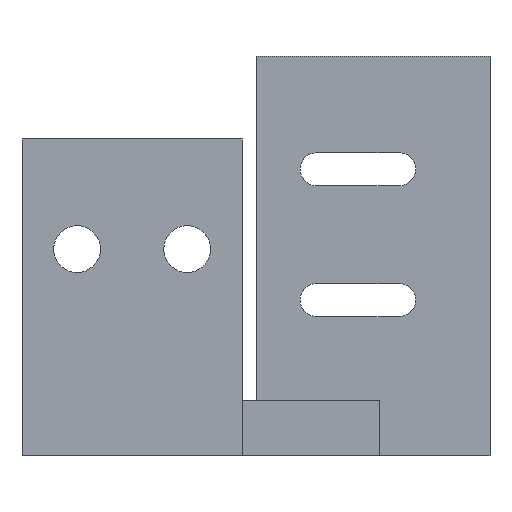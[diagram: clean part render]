
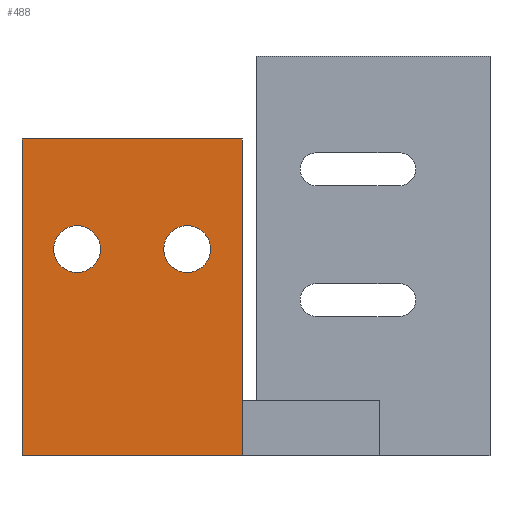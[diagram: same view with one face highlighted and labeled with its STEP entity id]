
A CAD part, left-side view. The second image highlights one B-rep face of the part: STEP entity #488.
In plain terms, the highlighted planar face has unit normal (-1, 0, 0).
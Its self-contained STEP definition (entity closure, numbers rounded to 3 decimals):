
#22 = VERTEX_POINT('',#23);
#23 = CARTESIAN_POINT('',(-8.,1.,23.));
#32 = PLANE('',#33);
#33 = AXIS2_PLACEMENT_3D('',#34,#35,#36);
#34 = CARTESIAN_POINT('',(-8.,1.,23.));
#35 = DIRECTION('',(0.,0.,-1.));
#36 = DIRECTION('',(1.,0.,0.));
#44 = PLANE('',#45);
#45 = AXIS2_PLACEMENT_3D('',#46,#47,#48);
#46 = CARTESIAN_POINT('',(-8.,1.,23.));
#47 = DIRECTION('',(0.,1.,0.));
#48 = DIRECTION('',(1.,0.,0.));
#56 = EDGE_CURVE('',#22,#57,#59,.T.);
#57 = VERTEX_POINT('',#58);
#58 = CARTESIAN_POINT('',(-8.,17.,23.));
#59 = SURFACE_CURVE('',#60,(#64,#71),.PCURVE_S1.);
#60 = LINE('',#61,#62);
#61 = CARTESIAN_POINT('',(-8.,1.,23.));
#62 = VECTOR('',#63,1.);
#63 = DIRECTION('',(0.,1.,0.));
#64 = PCURVE('',#32,#65);
#65 = DEFINITIONAL_REPRESENTATION('',(#66),#70);
#66 = LINE('',#67,#68);
#67 = CARTESIAN_POINT('',(0.,0.));
#68 = VECTOR('',#69,1.);
#69 = DIRECTION('',(0.,-1.));
#70 = ( GEOMETRIC_REPRESENTATION_CONTEXT(2) 
PARAMETRIC_REPRESENTATION_CONTEXT() REPRESENTATION_CONTEXT('2D SPACE',''
  ) );
#71 = PCURVE('',#72,#77);
#72 = PLANE('',#73);
#73 = AXIS2_PLACEMENT_3D('',#74,#75,#76);
#74 = CARTESIAN_POINT('',(-8.,1.,23.));
#75 = DIRECTION('',(1.,0.,0.));
#76 = DIRECTION('',(0.,0.,-1.));
#77 = DEFINITIONAL_REPRESENTATION('',(#78),#82);
#78 = LINE('',#79,#80);
#79 = CARTESIAN_POINT('',(0.,0.));
#80 = VECTOR('',#81,1.);
#81 = DIRECTION('',(0.,1.));
#82 = ( GEOMETRIC_REPRESENTATION_CONTEXT(2) 
PARAMETRIC_REPRESENTATION_CONTEXT() REPRESENTATION_CONTEXT('2D SPACE',''
  ) );
#100 = PLANE('',#101);
#101 = AXIS2_PLACEMENT_3D('',#102,#103,#104);
#102 = CARTESIAN_POINT('',(-8.,17.,23.));
#103 = DIRECTION('',(0.,1.,0.));
#104 = DIRECTION('',(1.,0.,0.));
#142 = VERTEX_POINT('',#143);
#143 = CARTESIAN_POINT('',(-8.,1.,0.));
#159 = PLANE('',#160);
#160 = AXIS2_PLACEMENT_3D('',#161,#162,#163);
#161 = CARTESIAN_POINT('',(-8.,1.,0.));
#162 = DIRECTION('',(0.,0.,-1.));
#163 = DIRECTION('',(1.,0.,0.));
#171 = EDGE_CURVE('',#22,#142,#172,.T.);
#172 = SURFACE_CURVE('',#173,(#177,#184),.PCURVE_S1.);
#173 = LINE('',#174,#175);
#174 = CARTESIAN_POINT('',(-8.,1.,23.));
#175 = VECTOR('',#176,1.);
#176 = DIRECTION('',(0.,0.,-1.));
#177 = PCURVE('',#44,#178);
#178 = DEFINITIONAL_REPRESENTATION('',(#179),#183);
#179 = LINE('',#180,#181);
#180 = CARTESIAN_POINT('',(0.,0.));
#181 = VECTOR('',#182,1.);
#182 = DIRECTION('',(0.,1.));
#183 = ( GEOMETRIC_REPRESENTATION_CONTEXT(2) 
PARAMETRIC_REPRESENTATION_CONTEXT() REPRESENTATION_CONTEXT('2D SPACE',''
  ) );
#184 = PCURVE('',#72,#185);
#185 = DEFINITIONAL_REPRESENTATION('',(#186),#190);
#186 = LINE('',#187,#188);
#187 = CARTESIAN_POINT('',(0.,0.));
#188 = VECTOR('',#189,1.);
#189 = DIRECTION('',(1.,0.));
#190 = ( GEOMETRIC_REPRESENTATION_CONTEXT(2) 
PARAMETRIC_REPRESENTATION_CONTEXT() REPRESENTATION_CONTEXT('2D SPACE',''
  ) );
#342 = CYLINDRICAL_SURFACE('',#343,1.7);
#343 = AXIS2_PLACEMENT_3D('',#344,#345,#346);
#344 = CARTESIAN_POINT('',(-8.02,5.,15.));
#345 = DIRECTION('',(-1.,-0.,0.));
#346 = DIRECTION('',(0.,0.,-1.));
#377 = CYLINDRICAL_SURFACE('',#378,1.7);
#378 = AXIS2_PLACEMENT_3D('',#379,#380,#381);
#379 = CARTESIAN_POINT('',(-8.02,13.,15.));
#380 = DIRECTION('',(-1.,-0.,0.));
#381 = DIRECTION('',(0.,0.,-1.));
#392 = EDGE_CURVE('',#57,#393,#395,.T.);
#393 = VERTEX_POINT('',#394);
#394 = CARTESIAN_POINT('',(-8.,17.,0.));
#395 = SURFACE_CURVE('',#396,(#400,#407),.PCURVE_S1.);
#396 = LINE('',#397,#398);
#397 = CARTESIAN_POINT('',(-8.,17.,23.));
#398 = VECTOR('',#399,1.);
#399 = DIRECTION('',(0.,0.,-1.));
#400 = PCURVE('',#100,#401);
#401 = DEFINITIONAL_REPRESENTATION('',(#402),#406);
#402 = LINE('',#403,#404);
#403 = CARTESIAN_POINT('',(0.,0.));
#404 = VECTOR('',#405,1.);
#405 = DIRECTION('',(0.,1.));
#406 = ( GEOMETRIC_REPRESENTATION_CONTEXT(2) 
PARAMETRIC_REPRESENTATION_CONTEXT() REPRESENTATION_CONTEXT('2D SPACE',''
  ) );
#407 = PCURVE('',#72,#408);
#408 = DEFINITIONAL_REPRESENTATION('',(#409),#413);
#409 = LINE('',#410,#411);
#410 = CARTESIAN_POINT('',(0.,16.));
#411 = VECTOR('',#412,1.);
#412 = DIRECTION('',(1.,0.));
#413 = ( GEOMETRIC_REPRESENTATION_CONTEXT(2) 
PARAMETRIC_REPRESENTATION_CONTEXT() REPRESENTATION_CONTEXT('2D SPACE',''
  ) );
#488 = ADVANCED_FACE('',(#489,#515,#545),#72,.F.);
#489 = FACE_BOUND('',#490,.F.);
#490 = EDGE_LOOP('',(#491,#492,#493,#514));
#491 = ORIENTED_EDGE('',*,*,#56,.F.);
#492 = ORIENTED_EDGE('',*,*,#171,.T.);
#493 = ORIENTED_EDGE('',*,*,#494,.T.);
#494 = EDGE_CURVE('',#142,#393,#495,.T.);
#495 = SURFACE_CURVE('',#496,(#500,#507),.PCURVE_S1.);
#496 = LINE('',#497,#498);
#497 = CARTESIAN_POINT('',(-8.,1.,0.));
#498 = VECTOR('',#499,1.);
#499 = DIRECTION('',(0.,1.,0.));
#500 = PCURVE('',#72,#501);
#501 = DEFINITIONAL_REPRESENTATION('',(#502),#506);
#502 = LINE('',#503,#504);
#503 = CARTESIAN_POINT('',(23.,0.));
#504 = VECTOR('',#505,1.);
#505 = DIRECTION('',(0.,1.));
#506 = ( GEOMETRIC_REPRESENTATION_CONTEXT(2) 
PARAMETRIC_REPRESENTATION_CONTEXT() REPRESENTATION_CONTEXT('2D SPACE',''
  ) );
#507 = PCURVE('',#159,#508);
#508 = DEFINITIONAL_REPRESENTATION('',(#509),#513);
#509 = LINE('',#510,#511);
#510 = CARTESIAN_POINT('',(0.,0.));
#511 = VECTOR('',#512,1.);
#512 = DIRECTION('',(0.,-1.));
#513 = ( GEOMETRIC_REPRESENTATION_CONTEXT(2) 
PARAMETRIC_REPRESENTATION_CONTEXT() REPRESENTATION_CONTEXT('2D SPACE',''
  ) );
#514 = ORIENTED_EDGE('',*,*,#392,.F.);
#515 = FACE_BOUND('',#516,.F.);
#516 = EDGE_LOOP('',(#517));
#517 = ORIENTED_EDGE('',*,*,#518,.T.);
#518 = EDGE_CURVE('',#519,#519,#521,.T.);
#519 = VERTEX_POINT('',#520);
#520 = CARTESIAN_POINT('',(-8.,5.,13.3));
#521 = SURFACE_CURVE('',#522,(#527,#538),.PCURVE_S1.);
#522 = CIRCLE('',#523,1.7);
#523 = AXIS2_PLACEMENT_3D('',#524,#525,#526);
#524 = CARTESIAN_POINT('',(-8.,5.,15.));
#525 = DIRECTION('',(-1.,-0.,0.));
#526 = DIRECTION('',(0.,0.,-1.));
#527 = PCURVE('',#72,#528);
#528 = DEFINITIONAL_REPRESENTATION('',(#529),#537);
#529 = ( BOUNDED_CURVE() B_SPLINE_CURVE(2,(#530,#531,#532,#533,#534,#535
,#536),.UNSPECIFIED.,.T.,.F.) B_SPLINE_CURVE_WITH_KNOTS((1,2,2,2,2,1),(
    -2.094,0.,2.094,4.189,6.283,
8.378),.UNSPECIFIED.) CURVE() GEOMETRIC_REPRESENTATION_ITEM() 
RATIONAL_B_SPLINE_CURVE((1.,0.5,1.,0.5,1.,0.5,1.)) REPRESENTATION_ITEM(
  '') );
#530 = CARTESIAN_POINT('',(9.7,4.));
#531 = CARTESIAN_POINT('',(9.7,1.056));
#532 = CARTESIAN_POINT('',(7.15,2.528));
#533 = CARTESIAN_POINT('',(4.6,4.));
#534 = CARTESIAN_POINT('',(7.15,5.472));
#535 = CARTESIAN_POINT('',(9.7,6.944));
#536 = CARTESIAN_POINT('',(9.7,4.));
#537 = ( GEOMETRIC_REPRESENTATION_CONTEXT(2) 
PARAMETRIC_REPRESENTATION_CONTEXT() REPRESENTATION_CONTEXT('2D SPACE',''
  ) );
#538 = PCURVE('',#342,#539);
#539 = DEFINITIONAL_REPRESENTATION('',(#540),#544);
#540 = LINE('',#541,#542);
#541 = CARTESIAN_POINT('',(-6.283,-0.02));
#542 = VECTOR('',#543,1.);
#543 = DIRECTION('',(1.,-0.));
#544 = ( GEOMETRIC_REPRESENTATION_CONTEXT(2) 
PARAMETRIC_REPRESENTATION_CONTEXT() REPRESENTATION_CONTEXT('2D SPACE',''
  ) );
#545 = FACE_BOUND('',#546,.F.);
#546 = EDGE_LOOP('',(#547));
#547 = ORIENTED_EDGE('',*,*,#548,.T.);
#548 = EDGE_CURVE('',#549,#549,#551,.T.);
#549 = VERTEX_POINT('',#550);
#550 = CARTESIAN_POINT('',(-8.,13.,13.3));
#551 = SURFACE_CURVE('',#552,(#557,#568),.PCURVE_S1.);
#552 = CIRCLE('',#553,1.7);
#553 = AXIS2_PLACEMENT_3D('',#554,#555,#556);
#554 = CARTESIAN_POINT('',(-8.,13.,15.));
#555 = DIRECTION('',(-1.,-0.,0.));
#556 = DIRECTION('',(0.,0.,-1.));
#557 = PCURVE('',#72,#558);
#558 = DEFINITIONAL_REPRESENTATION('',(#559),#567);
#559 = ( BOUNDED_CURVE() B_SPLINE_CURVE(2,(#560,#561,#562,#563,#564,#565
,#566),.UNSPECIFIED.,.T.,.F.) B_SPLINE_CURVE_WITH_KNOTS((1,2,2,2,2,1),(
    -2.094,0.,2.094,4.189,6.283,
8.378),.UNSPECIFIED.) CURVE() GEOMETRIC_REPRESENTATION_ITEM() 
RATIONAL_B_SPLINE_CURVE((1.,0.5,1.,0.5,1.,0.5,1.)) REPRESENTATION_ITEM(
  '') );
#560 = CARTESIAN_POINT('',(9.7,12.));
#561 = CARTESIAN_POINT('',(9.7,9.056));
#562 = CARTESIAN_POINT('',(7.15,10.528));
#563 = CARTESIAN_POINT('',(4.6,12.));
#564 = CARTESIAN_POINT('',(7.15,13.472));
#565 = CARTESIAN_POINT('',(9.7,14.944));
#566 = CARTESIAN_POINT('',(9.7,12.));
#567 = ( GEOMETRIC_REPRESENTATION_CONTEXT(2) 
PARAMETRIC_REPRESENTATION_CONTEXT() REPRESENTATION_CONTEXT('2D SPACE',''
  ) );
#568 = PCURVE('',#377,#569);
#569 = DEFINITIONAL_REPRESENTATION('',(#570),#574);
#570 = LINE('',#571,#572);
#571 = CARTESIAN_POINT('',(-6.283,-0.02));
#572 = VECTOR('',#573,1.);
#573 = DIRECTION('',(1.,-0.));
#574 = ( GEOMETRIC_REPRESENTATION_CONTEXT(2) 
PARAMETRIC_REPRESENTATION_CONTEXT() REPRESENTATION_CONTEXT('2D SPACE',''
  ) );
